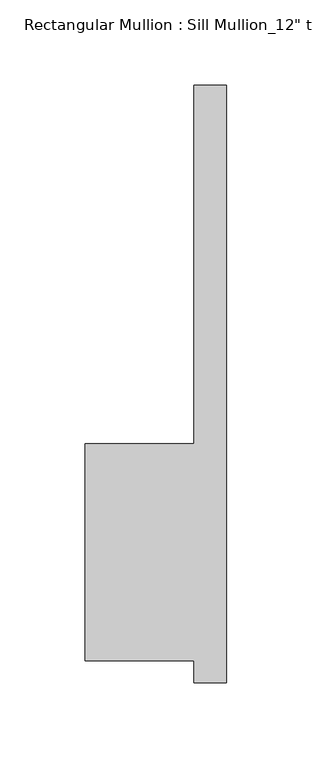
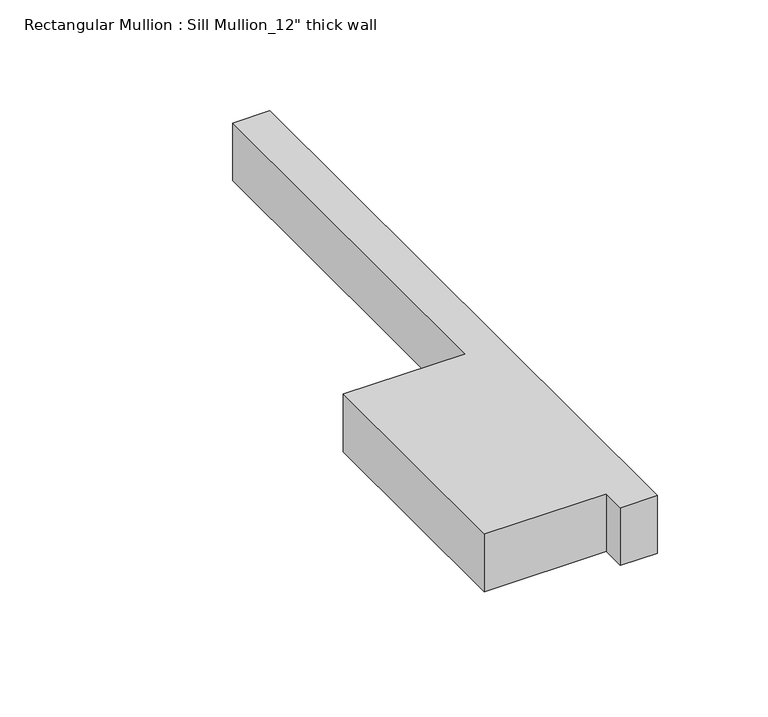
"""IFC4 building model written with IfcOpenShell, lengths in millimetres: member geometry."""

from ifc_helpers import new_model, si_unit, frame, origin, place, context, project, spatial, polyline, outline, extrude, source, transform, mapped, element, save


def member_34e49665(model_context):
    return source(origin(), model_context, "Body", "SweptSolid", [
        extrude(outline(polyline([(-82.55, 50.8), (-19.05, 50.8), (-19.05, 260.35), (0.0, 260.35), (0.0, -88.9), (-19.05, -88.9), (-19.05, -76.2), (-82.55, -76.2), (-82.55, 50.8)])), frame((0.0, 0.0, -31.75), z_axis=(0.0, 0.0, 1.0), x_axis=(1.0, 0.0, 0.0)), (0.0, 0.0, 1.0), 31.75),
    ])


if __name__ == "__main__":
    model = new_model("IFC4")
    model_context = context("Model", 3, world=origin())
    ifc_project = project(units=[si_unit("LENGTHUNIT", "METRE", prefix="MILLI")], contexts=[model_context])
    site = spatial("IfcSite", under=ifc_project)
    building = spatial("IfcBuilding", under=site)
    placement = place(None, origin())
    member_shape = member_34e49665(model_context)
    element("IfcMember", 1, ObjectType="Rectangular Mullion : Sill Mullion_12\" thick wall", at=placement, inside=building, context=model_context, shape_type="MappedRepresentation", body=[
        mapped(member_shape, transform((0.0, 0.0, 0.0), x_axis=(1.0, 0.0, 0.0), y_axis=(0.0, 1.0, 0.0), z_axis=(0.0, 0.0, 1.0))),
    ])
    save(model, "model.ifc")
